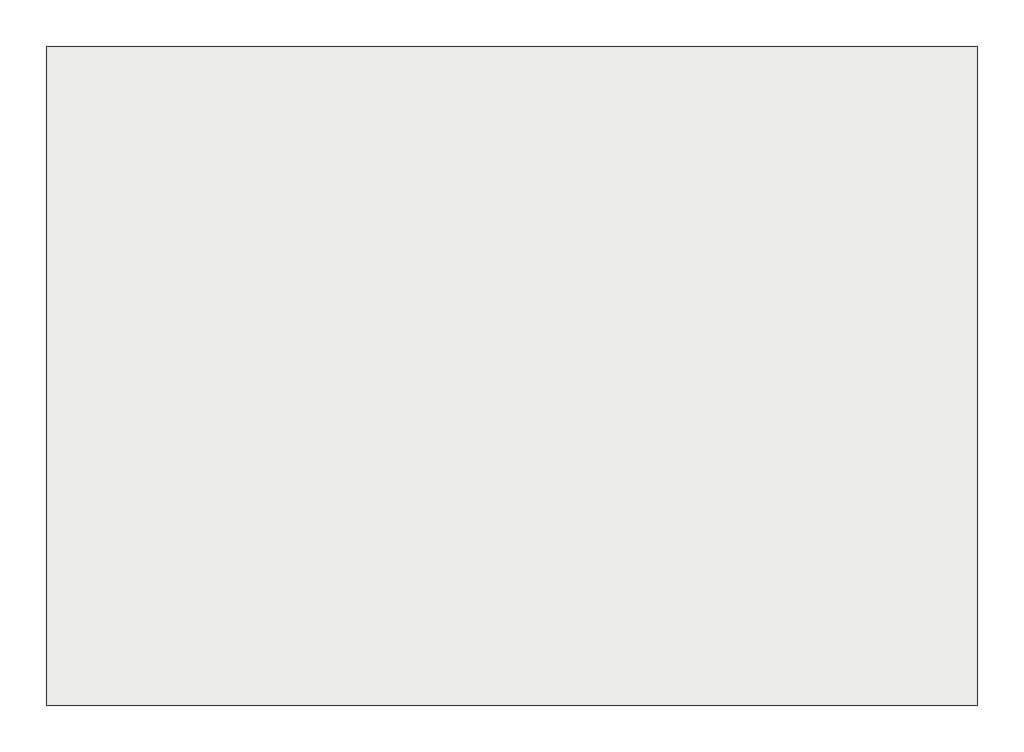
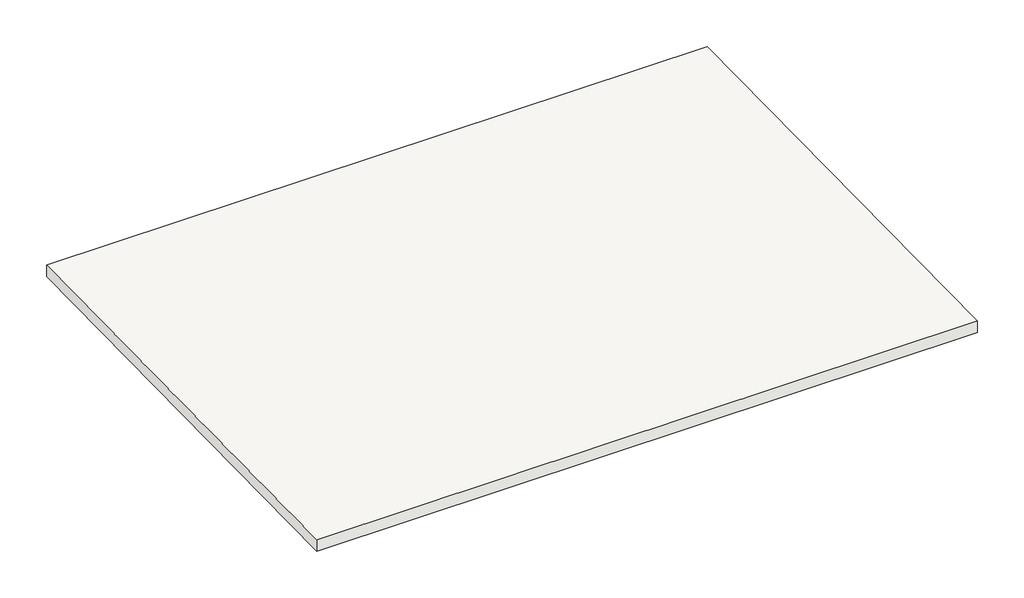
# One storey: 1 slab.
"""IFC4 building model written with IfcOpenShell, lengths in millimetres."""

from ifc_helpers import new_model, si_unit, frame, origin, place, context, project, spatial, polyline, outline, extrude, element, save

model = new_model("IFC4")

# Units and contexts
model_context = context("Model", 3, world=origin())
ifc_project = project(units=[si_unit("LENGTHUNIT", "METRE", prefix="MILLI")], contexts=[model_context])

# Site, building, storey
site = spatial("IfcSite", under=ifc_project)
building = spatial("IfcBuilding", under=site)
storey = spatial("IfcBuildingStorey", under=building, Name="RFL(水下)", Elevation=12815.0)

# Slab
placement = place(None, origin())
element("IfcSlab", 1, ObjectType="一般180mm+35mm", at=placement, inside=storey, context=model_context, shape_type="SweptSolid", body=[
    extrude(outline(polyline([(8325.0, 12719.9772574), (75.0, 12599.9772574), (75.0, 12815.0), (8325.0, 12935.0), (8325.0, 12719.9772574)])), frame((75.0, 0.0, 0.0), z_axis=(1.0, 0.0, 0.0), x_axis=(0.0, 1.0, 0.0)), (0.0, 0.0, 1.0), 11650.0),
])

save(model, "model.ifc")
